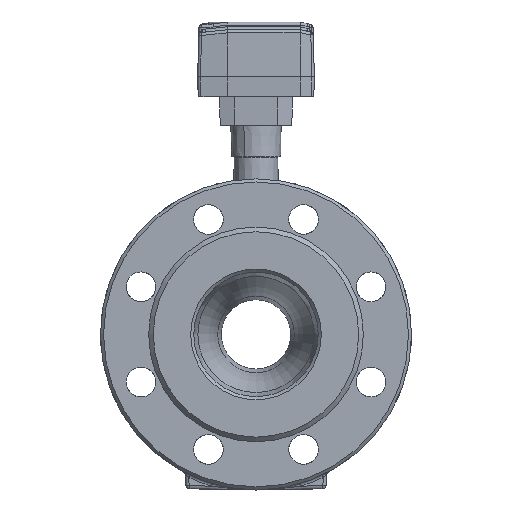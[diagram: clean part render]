
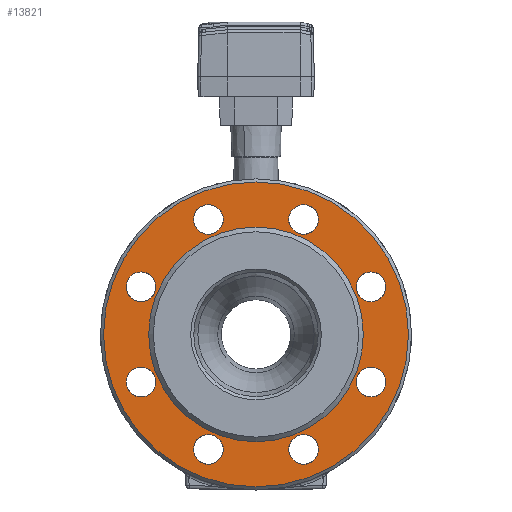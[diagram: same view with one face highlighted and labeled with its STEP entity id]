
A CAD part, left-side view. The second image highlights one B-rep face of the part: STEP entity #13821.
In plain terms, the highlighted planar face has unit normal (-1, 0, 0).
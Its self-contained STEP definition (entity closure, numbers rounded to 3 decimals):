
#12024=CIRCLE('',#40895,98.);
#12025=CIRCLE('',#40896,9.55);
#12026=CIRCLE('',#40897,9.55);
#12027=CIRCLE('',#40898,9.55);
#12028=CIRCLE('',#40899,9.55);
#12029=CIRCLE('',#40900,69.);
#12030=CIRCLE('',#40901,9.55);
#12031=CIRCLE('',#40902,9.55);
#12032=CIRCLE('',#40903,9.55);
#12033=CIRCLE('',#40904,9.55);
#12654=FACE_BOUND('',#17870,.T.);
#12655=FACE_BOUND('',#17871,.T.);
#12656=FACE_BOUND('',#17872,.T.);
#12657=FACE_BOUND('',#17873,.T.);
#12658=FACE_BOUND('',#17874,.T.);
#12659=FACE_BOUND('',#17875,.T.);
#12660=FACE_BOUND('',#17876,.T.);
#12661=FACE_BOUND('',#17877,.T.);
#12662=FACE_BOUND('',#17878,.T.);
#12663=FACE_BOUND('',#17879,.T.);
#13821=ADVANCED_FACE('',(#12654,#12655,#12656,#12657,#12658,#12659,#12660,
#12661,#12662,#12663),#15196,.T.);
#15196=PLANE('',#40905);
#17870=EDGE_LOOP('',(#26268));
#17871=EDGE_LOOP('',(#26269));
#17872=EDGE_LOOP('',(#26270));
#17873=EDGE_LOOP('',(#26271));
#17874=EDGE_LOOP('',(#26272));
#17875=EDGE_LOOP('',(#26273));
#17876=EDGE_LOOP('',(#26274));
#17877=EDGE_LOOP('',(#26275));
#17878=EDGE_LOOP('',(#26276));
#17879=EDGE_LOOP('',(#26277));
#26268=ORIENTED_EDGE('',*,*,#36163,.F.);
#26269=ORIENTED_EDGE('',*,*,#36164,.T.);
#26270=ORIENTED_EDGE('',*,*,#36165,.T.);
#26271=ORIENTED_EDGE('',*,*,#36166,.T.);
#26272=ORIENTED_EDGE('',*,*,#36167,.T.);
#26273=ORIENTED_EDGE('',*,*,#36168,.T.);
#26274=ORIENTED_EDGE('',*,*,#36169,.T.);
#26275=ORIENTED_EDGE('',*,*,#36170,.T.);
#26276=ORIENTED_EDGE('',*,*,#36171,.T.);
#26277=ORIENTED_EDGE('',*,*,#36172,.T.);
#32858=VERTEX_POINT('',#63768);
#32859=VERTEX_POINT('',#63770);
#32860=VERTEX_POINT('',#63772);
#32861=VERTEX_POINT('',#63774);
#32862=VERTEX_POINT('',#63776);
#32863=VERTEX_POINT('',#63778);
#32864=VERTEX_POINT('',#63780);
#32865=VERTEX_POINT('',#63782);
#32866=VERTEX_POINT('',#63784);
#32867=VERTEX_POINT('',#63786);
#36163=EDGE_CURVE('',#32858,#32858,#12024,.T.);
#36164=EDGE_CURVE('',#32859,#32859,#12025,.T.);
#36165=EDGE_CURVE('',#32860,#32860,#12026,.T.);
#36166=EDGE_CURVE('',#32861,#32861,#12027,.T.);
#36167=EDGE_CURVE('',#32862,#32862,#12028,.T.);
#36168=EDGE_CURVE('',#32863,#32863,#12029,.T.);
#36169=EDGE_CURVE('',#32864,#32864,#12030,.T.);
#36170=EDGE_CURVE('',#32865,#32865,#12031,.T.);
#36171=EDGE_CURVE('',#32866,#32866,#12032,.T.);
#36172=EDGE_CURVE('',#32867,#32867,#12033,.T.);
#40895=AXIS2_PLACEMENT_3D('',#63767,#44984,#44985);
#40896=AXIS2_PLACEMENT_3D('',#63769,#44986,#44987);
#40897=AXIS2_PLACEMENT_3D('',#63771,#44988,#44989);
#40898=AXIS2_PLACEMENT_3D('',#63773,#44990,#44991);
#40899=AXIS2_PLACEMENT_3D('',#63775,#44992,#44993);
#40900=AXIS2_PLACEMENT_3D('',#63777,#44994,#44995);
#40901=AXIS2_PLACEMENT_3D('',#63779,#44996,#44997);
#40902=AXIS2_PLACEMENT_3D('',#63781,#44998,#44999);
#40903=AXIS2_PLACEMENT_3D('',#63783,#45000,#45001);
#40904=AXIS2_PLACEMENT_3D('',#63785,#45002,#45003);
#40905=AXIS2_PLACEMENT_3D('',#63787,#45004,#45005);
#44984=DIRECTION('',(1.,0.,0.));
#44985=DIRECTION('',(0.,0.,1.));
#44986=DIRECTION('',(1.,0.,0.));
#44987=DIRECTION('',(0.,0.,1.));
#44988=DIRECTION('',(1.,0.,0.));
#44989=DIRECTION('',(0.,0.,1.));
#44990=DIRECTION('',(1.,0.,0.));
#44991=DIRECTION('',(0.,0.,1.));
#44992=DIRECTION('',(1.,0.,0.));
#44993=DIRECTION('',(0.,0.,1.));
#44994=DIRECTION('',(1.,0.,0.));
#44995=DIRECTION('',(0.,0.,-1.));
#44996=DIRECTION('',(1.,0.,0.));
#44997=DIRECTION('',(0.,0.,1.));
#44998=DIRECTION('',(1.,0.,0.));
#44999=DIRECTION('',(0.,0.,1.));
#45000=DIRECTION('',(1.,0.,0.));
#45001=DIRECTION('',(0.,0.,1.));
#45002=DIRECTION('',(1.,0.,0.));
#45003=DIRECTION('',(0.,0.,1.));
#45004=DIRECTION('',(-1.,0.,0.));
#45005=DIRECTION('',(0.,0.,-1.));
#63767=CARTESIAN_POINT('',(-127.,0.,0.));
#63768=CARTESIAN_POINT('',(-127.,0.,98.));
#63769=CARTESIAN_POINT('',(-127.,-30.615,73.91));
#63770=CARTESIAN_POINT('',(-127.,-30.615,83.46));
#63771=CARTESIAN_POINT('',(-127.,-73.91,-30.615));
#63772=CARTESIAN_POINT('',(-127.,-73.91,-21.065));
#63773=CARTESIAN_POINT('',(-127.,30.615,-73.91));
#63774=CARTESIAN_POINT('',(-127.,30.615,-64.36));
#63775=CARTESIAN_POINT('',(-127.,73.91,30.615));
#63776=CARTESIAN_POINT('',(-127.,73.91,40.165));
#63777=CARTESIAN_POINT('',(-127.,0.,0.));
#63778=CARTESIAN_POINT('',(-127.,0.,-69.));
#63779=CARTESIAN_POINT('',(-127.,73.91,-30.615));
#63780=CARTESIAN_POINT('',(-127.,73.91,-21.065));
#63781=CARTESIAN_POINT('',(-127.,-30.615,-73.91));
#63782=CARTESIAN_POINT('',(-127.,-30.615,-64.36));
#63783=CARTESIAN_POINT('',(-127.,-73.91,30.615));
#63784=CARTESIAN_POINT('',(-127.,-73.91,40.165));
#63785=CARTESIAN_POINT('',(-127.,30.615,73.91));
#63786=CARTESIAN_POINT('',(-127.,30.615,83.46));
#63787=CARTESIAN_POINT('',(-127.,0.,144.088));
